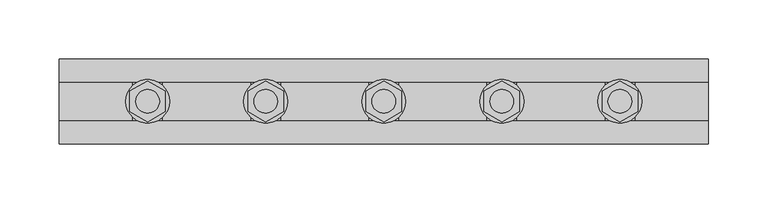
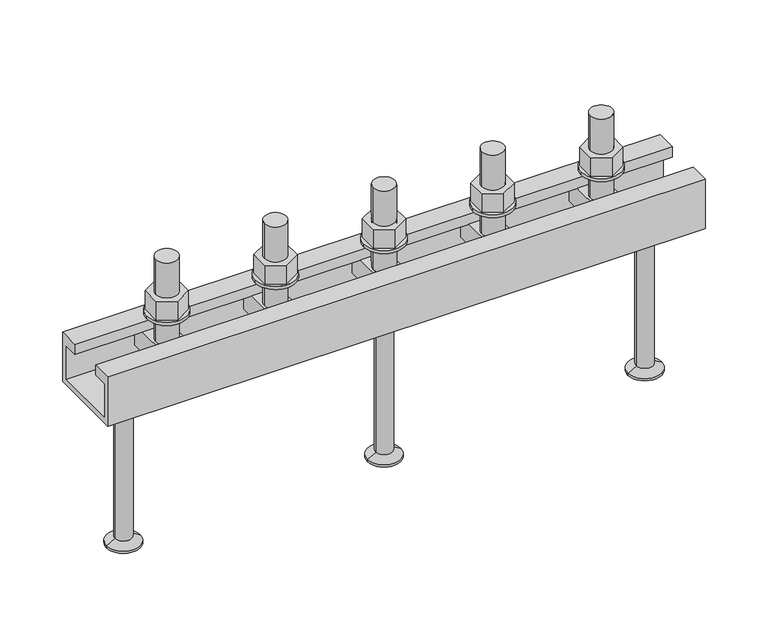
"""IFC4 building model written with IfcOpenShell, lengths in millimetres: fastener geometry, JTA-W JORDAHL® AnchorChannels : JTA-W L=550 mm."""

from ifc_helpers import new_model, si_unit, point, frame, frame_2d, origin, place, context, project, spatial, polyline, circle_curve, trimmed, segment, composite_curve, outline, extrude, source, transform, mapped, element, save
from ifc_brep_helpers import plane_surface, cylinder_surface, revolved_surface, advanced_brep


def fastener_9d3a3b20(model_context):
    return source(origin(), model_context, "Body", "SolidModel", [
        extrude(outline(polyline([(375.0, 17.3205081), (390.0, 8.660254), (390.0, -8.660254), (375.0, -17.3205081), (360.0, -8.660254), (360.0, 8.660254), (375.0, 17.3205081)]), holes=[composite_curve([segment(trimmed(circle_curve(frame_2d((375.0, 0.0)), 10.0), [point((365.0, 0.0))], [point((385.0, 0.0))], True, "CARTESIAN"), True, "CONTINUOUS"), segment(trimmed(circle_curve(frame_2d((375.0, 0.0)), 10.0), [point((385.0, 0.0))], [point((365.0, 0.0))], True, "CARTESIAN"), True, "CONTINUOUS")], self_intersect=False)]), frame((0.0, 0.0, 18.0), z_axis=(0.0, 0.0, 1.0), x_axis=(1.0, 0.0, 0.0)), (0.0, 0.0, 1.0), 18.0),
        extrude(outline(composite_curve([segment(trimmed(circle_curve(frame_2d((375.0, 0.0)), 18.5), [point((356.5, 0.0))], [point((393.5, 0.0))], False, "CARTESIAN"), True, "CONTINUOUS"), segment(trimmed(circle_curve(frame_2d((375.0, 0.0)), 18.5), [point((393.5, 0.0))], [point((356.5, 0.0))], False, "CARTESIAN"), True, "CONTINUOUS")], self_intersect=False), holes=[composite_curve([segment(trimmed(circle_curve(frame_2d((375.0, 0.0)), 10.5), [point((364.5, 0.0))], [point((385.5, 0.0))], True, "CARTESIAN"), True, "CONTINUOUS"), segment(trimmed(circle_curve(frame_2d((375.0, 0.0)), 10.5), [point((385.5, 0.0))], [point((364.5, 0.0))], True, "CARTESIAN"), True, "CONTINUOUS")], self_intersect=False)]), frame((0.0, 0.0, 15.0), z_axis=(0.0, 0.0, 1.0), x_axis=(1.0, 0.0, 0.0)), (0.0, 0.0, 1.0), 3.0),
        extrude(outline(polyline([(275.0, 17.3205081), (290.0, 8.660254), (290.0, -8.660254), (275.0, -17.3205081), (260.0, -8.660254), (260.0, 8.660254), (275.0, 17.3205081)]), holes=[composite_curve([segment(trimmed(circle_curve(frame_2d((275.0, 0.0)), 10.0), [point((265.0, 0.0))], [point((285.0, 0.0))], True, "CARTESIAN"), True, "CONTINUOUS"), segment(trimmed(circle_curve(frame_2d((275.0, 0.0)), 10.0), [point((285.0, 0.0))], [point((265.0, 0.0))], True, "CARTESIAN"), True, "CONTINUOUS")], self_intersect=False)]), frame((0.0, 0.0, 18.0), z_axis=(0.0, 0.0, 1.0), x_axis=(1.0, 0.0, 0.0)), (0.0, 0.0, 1.0), 18.0),
        extrude(outline(composite_curve([segment(trimmed(circle_curve(frame_2d((275.0, 0.0)), 18.5), [point((256.5, 0.0))], [point((293.5, 0.0))], False, "CARTESIAN"), True, "CONTINUOUS"), segment(trimmed(circle_curve(frame_2d((275.0, 0.0)), 18.5), [point((293.5, 0.0))], [point((256.5, 0.0))], False, "CARTESIAN"), True, "CONTINUOUS")], self_intersect=False), holes=[composite_curve([segment(trimmed(circle_curve(frame_2d((275.0, 0.0)), 10.5), [point((264.5, 0.0))], [point((285.5, 0.0))], True, "CARTESIAN"), True, "CONTINUOUS"), segment(trimmed(circle_curve(frame_2d((275.0, 0.0)), 10.5), [point((285.5, 0.0))], [point((264.5, 0.0))], True, "CARTESIAN"), True, "CONTINUOUS")], self_intersect=False)]), frame((0.0, 0.0, 15.0), z_axis=(0.0, 0.0, 1.0), x_axis=(1.0, 0.0, 0.0)), (0.0, 0.0, 1.0), 3.0),
        extrude(outline(polyline([(175.0, 17.3205081), (190.0, 8.660254), (190.0, -8.660254), (175.0, -17.3205081), (160.0, -8.660254), (160.0, 8.660254), (175.0, 17.3205081)]), holes=[composite_curve([segment(trimmed(circle_curve(frame_2d((175.0, 0.0)), 10.0), [point((165.0, 0.0))], [point((185.0, 0.0))], True, "CARTESIAN"), True, "CONTINUOUS"), segment(trimmed(circle_curve(frame_2d((175.0, 0.0)), 10.0), [point((185.0, 0.0))], [point((165.0, 0.0))], True, "CARTESIAN"), True, "CONTINUOUS")], self_intersect=False)]), frame((0.0, 0.0, 18.0), z_axis=(0.0, 0.0, 1.0), x_axis=(1.0, 0.0, 0.0)), (0.0, 0.0, 1.0), 18.0),
        extrude(outline(composite_curve([segment(trimmed(circle_curve(frame_2d((175.0, 0.0)), 18.5), [point((156.5, 0.0))], [point((193.5, 0.0))], False, "CARTESIAN"), True, "CONTINUOUS"), segment(trimmed(circle_curve(frame_2d((175.0, 0.0)), 18.5), [point((193.5, 0.0))], [point((156.5, 0.0))], False, "CARTESIAN"), True, "CONTINUOUS")], self_intersect=False), holes=[composite_curve([segment(trimmed(circle_curve(frame_2d((175.0, 0.0)), 10.5), [point((164.5, 0.0))], [point((185.5, 0.0))], True, "CARTESIAN"), True, "CONTINUOUS"), segment(trimmed(circle_curve(frame_2d((175.0, 0.0)), 10.5), [point((185.5, 0.0))], [point((164.5, 0.0))], True, "CARTESIAN"), True, "CONTINUOUS")], self_intersect=False)]), frame((0.0, 0.0, 15.0), z_axis=(0.0, 0.0, 1.0), x_axis=(1.0, 0.0, 0.0)), (0.0, 0.0, 1.0), 3.0),
        advanced_brep(
        [(387.5, 29.0, -10.0), (387.5, -29.0, -10.0), (387.5, -29.0, -30.0), (387.5, 29.0, -30.0), (362.5, 29.0, -10.0), (362.5, 29.0, -30.0), (362.5, -29.0, -30.0), (362.5, -29.0, -10.0), (385.0, 0.0, -10.0), (365.0, 0.0, -10.0), (365.0, 0.0, 70.0), (385.0, 0.0, 70.0)],
        [
            (0, 1),
            (1, 2),
            (2, 3),
            (3, 0),
            (4, 5),
            (5, 6),
            (6, 7),
            (7, 4),
            (0, 4),
            (7, 1),
            (8, 9, circle_curve(frame((375.0, 0.0, -10.0), z_axis=(0.0, 0.0, -1.0), x_axis=(1.0, 0.0, 0.0)), 10.0)),
            (9, 8, circle_curve(frame((375.0, 0.0, -10.0), z_axis=(0.0, 0.0, -1.0), x_axis=(1.0, 0.0, 0.0)), 10.0)),
            (6, 2),
            (5, 3),
            (10, 11, circle_curve(frame((375.0, 0.0, 70.0), z_axis=(0.0, 0.0, 1.0), x_axis=(1.0, 0.0, 0.0)), 10.0)),
            (11, 10, circle_curve(frame((375.0, 0.0, 70.0), z_axis=(0.0, 0.0, 1.0), x_axis=(1.0, 0.0, 0.0)), 10.0)),
            (10, 9),
            (8, 11),
        ],
        [
            plane_surface(frame((387.5, -29.0, -10.0), z_axis=(1.0, 0.0, 0.0), x_axis=(0.0, -1.0, 0.0))),
            plane_surface(frame((362.5, -29.0, -10.0), z_axis=(-1.0, 0.0, 0.0), x_axis=(0.0, 1.0, 0.0))),
            plane_surface(frame((387.5, 29.0, -10.0), z_axis=(0.0, 0.0, 1.0), x_axis=(-1.0, 0.0, 0.0))),
            plane_surface(frame((387.5, -29.0, -10.0), z_axis=(0.0, -1.0, 0.0), x_axis=(-1.0, 0.0, 0.0))),
            plane_surface(frame((387.5, -29.0, -30.0), z_axis=(0.0, 0.0, -1.0), x_axis=(-1.0, 0.0, 0.0))),
            plane_surface(frame((387.5, 29.0, -30.0), z_axis=(0.0, 1.0, 0.0), x_axis=(-1.0, 0.0, 0.0))),
            plane_surface(frame((385.0, 0.0, 70.0), z_axis=(0.0, 0.0, 1.0), x_axis=(0.0, 1.0, 0.0))),
            cylinder_surface(frame((375.0, 0.0, -10.0), z_axis=(0.0, 0.0, 1.0), x_axis=(1.0, 0.0, 0.0)), 10.0),
        ],
        [
            (0, [[1, 2, 3, 4]]),
            (1, [[5, 6, 7, 8]]),
            (2, [[-1, 9, -8, 10], [11, 12]]),
            (3, [[-2, -10, -7, 13]]),
            (4, [[-3, -13, -6, 14]]),
            (5, [[-4, -14, -5, -9]]),
            (6, [[15, 16]]),
            (7, [[-15, 17, -11, 18]]),
            (7, [[-16, -18, -12, -17]]),
        ],
    ),
        advanced_brep(
        [(287.5, 29.0, -10.0), (287.5, -29.0, -10.0), (287.5, -29.0, -30.0), (287.5, 29.0, -30.0), (262.5, 29.0, -10.0), (262.5, 29.0, -30.0), (262.5, -29.0, -30.0), (262.5, -29.0, -10.0), (285.0, 0.0, -10.0), (265.0, 0.0, -10.0), (265.0, 0.0, 70.0), (285.0, 0.0, 70.0)],
        [
            (0, 1),
            (1, 2),
            (2, 3),
            (3, 0),
            (4, 5),
            (5, 6),
            (6, 7),
            (7, 4),
            (0, 4),
            (7, 1),
            (8, 9, circle_curve(frame((275.0, 0.0, -10.0), z_axis=(0.0, 0.0, -1.0), x_axis=(1.0, 0.0, 0.0)), 10.0)),
            (9, 8, circle_curve(frame((275.0, 0.0, -10.0), z_axis=(0.0, 0.0, -1.0), x_axis=(1.0, 0.0, 0.0)), 10.0)),
            (6, 2),
            (5, 3),
            (10, 11, circle_curve(frame((275.0, 0.0, 70.0), z_axis=(0.0, 0.0, 1.0), x_axis=(1.0, 0.0, 0.0)), 10.0)),
            (11, 10, circle_curve(frame((275.0, 0.0, 70.0), z_axis=(0.0, 0.0, 1.0), x_axis=(1.0, 0.0, 0.0)), 10.0)),
            (10, 9),
            (8, 11),
        ],
        [
            plane_surface(frame((287.5, -29.0, -10.0), z_axis=(1.0, 0.0, 0.0), x_axis=(0.0, -1.0, 0.0))),
            plane_surface(frame((262.5, -29.0, -10.0), z_axis=(-1.0, 0.0, 0.0), x_axis=(0.0, 1.0, 0.0))),
            plane_surface(frame((287.5, 29.0, -10.0), z_axis=(0.0, 0.0, 1.0), x_axis=(-1.0, 0.0, 0.0))),
            plane_surface(frame((287.5, -29.0, -10.0), z_axis=(0.0, -1.0, 0.0), x_axis=(-1.0, 0.0, 0.0))),
            plane_surface(frame((287.5, -29.0, -30.0), z_axis=(0.0, 0.0, -1.0), x_axis=(-1.0, 0.0, 0.0))),
            plane_surface(frame((287.5, 29.0, -30.0), z_axis=(0.0, 1.0, 0.0), x_axis=(-1.0, 0.0, 0.0))),
            plane_surface(frame((285.0, 0.0, 70.0), z_axis=(0.0, 0.0, 1.0), x_axis=(0.0, 1.0, 0.0))),
            cylinder_surface(frame((275.0, 0.0, -10.0), z_axis=(0.0, 0.0, 1.0), x_axis=(1.0, 0.0, 0.0)), 10.0),
        ],
        [
            (0, [[1, 2, 3, 4]]),
            (1, [[5, 6, 7, 8]]),
            (2, [[-1, 9, -8, 10], [11, 12]]),
            (3, [[-2, -10, -7, 13]]),
            (4, [[-3, -13, -6, 14]]),
            (5, [[-4, -14, -5, -9]]),
            (6, [[15, 16]]),
            (7, [[-15, 17, -11, 18]]),
            (7, [[-16, -18, -12, -17]]),
        ],
    ),
        advanced_brep(
        [(187.5, 29.0, -10.0), (187.5, -29.0, -10.0), (187.5, -29.0, -30.0), (187.5, 29.0, -30.0), (162.5, 29.0, -10.0), (162.5, 29.0, -30.0), (162.5, -29.0, -30.0), (162.5, -29.0, -10.0), (185.0, 0.0, -10.0), (165.0, 0.0, -10.0), (165.0, 0.0, 70.0), (185.0, 0.0, 70.0)],
        [
            (0, 1),
            (1, 2),
            (2, 3),
            (3, 0),
            (4, 5),
            (5, 6),
            (6, 7),
            (7, 4),
            (0, 4),
            (7, 1),
            (8, 9, circle_curve(frame((175.0, 0.0, -10.0), z_axis=(0.0, 0.0, -1.0), x_axis=(1.0, 0.0, 0.0)), 10.0)),
            (9, 8, circle_curve(frame((175.0, 0.0, -10.0), z_axis=(0.0, 0.0, -1.0), x_axis=(1.0, 0.0, 0.0)), 10.0)),
            (6, 2),
            (5, 3),
            (10, 11, circle_curve(frame((175.0, 0.0, 70.0), z_axis=(0.0, 0.0, 1.0), x_axis=(1.0, 0.0, 0.0)), 10.0)),
            (11, 10, circle_curve(frame((175.0, 0.0, 70.0), z_axis=(0.0, 0.0, 1.0), x_axis=(1.0, 0.0, 0.0)), 10.0)),
            (10, 9),
            (8, 11),
        ],
        [
            plane_surface(frame((187.5, -29.0, -10.0), z_axis=(1.0, 0.0, 0.0), x_axis=(0.0, -1.0, 0.0))),
            plane_surface(frame((162.5, -29.0, -10.0), z_axis=(-1.0, 0.0, 0.0), x_axis=(0.0, 1.0, 0.0))),
            plane_surface(frame((187.5, 29.0, -10.0), z_axis=(0.0, 0.0, 1.0), x_axis=(-1.0, 0.0, 0.0))),
            plane_surface(frame((187.5, -29.0, -10.0), z_axis=(0.0, -1.0, 0.0), x_axis=(-1.0, 0.0, 0.0))),
            plane_surface(frame((187.5, -29.0, -30.0), z_axis=(0.0, 0.0, -1.0), x_axis=(-1.0, 0.0, 0.0))),
            plane_surface(frame((187.5, 29.0, -30.0), z_axis=(0.0, 1.0, 0.0), x_axis=(-1.0, 0.0, 0.0))),
            plane_surface(frame((185.0, 0.0, 70.0), z_axis=(0.0, 0.0, 1.0), x_axis=(0.0, 1.0, 0.0))),
            cylinder_surface(frame((175.0, 0.0, -10.0), z_axis=(0.0, 0.0, 1.0), x_axis=(1.0, 0.0, 0.0)), 10.0),
        ],
        [
            (0, [[1, 2, 3, 4]]),
            (1, [[5, 6, 7, 8]]),
            (2, [[-1, 9, -8, 10], [11, 12]]),
            (3, [[-2, -10, -7, 13]]),
            (4, [[-3, -13, -6, 14]]),
            (5, [[-4, -14, -5, -9]]),
            (6, [[15, 16]]),
            (7, [[-15, 17, -11, 18]]),
            (7, [[-16, -18, -12, -17]]),
        ],
    ),
        advanced_brep(
        [(275.0, 0.0, -48.0), (298.0, 0.0, -48.0), (252.0, 0.0, -48.0), (259.5, 0.0, -195.0), (290.5, 0.0, -195.0), (275.0, 0.0, -195.0), (259.5, 0.0, -193.0), (290.5, 0.0, -193.0), (267.2, 0.0, -188.5544029), (282.8, 0.0, -188.5544029), (267.2, 0.0, -52.0), (282.8, 0.0, -52.0)],
        [
            (0, 1),
            (1, 2, circle_curve(frame((275.0, 0.0, -48.0), z_axis=(0.0, 0.0, 1.0), x_axis=(1.0, 0.0, 0.0)), 23.0)),
            (2, 0),
            (2, 1, circle_curve(frame((275.0, 0.0, -48.0), z_axis=(0.0, 0.0, 1.0), x_axis=(1.0, 0.0, 0.0)), 23.0)),
            (3, 4, circle_curve(frame((275.0, 0.0, -195.0), z_axis=(0.0, 0.0, -1.0), x_axis=(1.0, 0.0, 0.0)), 15.5)),
            (4, 5),
            (5, 3),
            (4, 3, circle_curve(frame((275.0, 0.0, -195.0), z_axis=(0.0, 0.0, -1.0), x_axis=(1.0, 0.0, 0.0)), 15.5)),
            (6, 7, circle_curve(frame((275.0, 0.0, -193.0), z_axis=(0.0, 0.0, -1.0), x_axis=(1.0, 0.0, 0.0)), 15.5)),
            (7, 4),
            (3, 6),
            (7, 6, circle_curve(frame((275.0, 0.0, -193.0), z_axis=(0.0, 0.0, -1.0), x_axis=(1.0, 0.0, 0.0)), 15.5)),
            (8, 9, circle_curve(frame((275.0, 0.0, -188.5544029), z_axis=(0.0, 0.0, -1.0), x_axis=(1.0, 0.0, 0.0)), 7.8)),
            (9, 7),
            (6, 8),
            (9, 8, circle_curve(frame((275.0, 0.0, -188.5544029), z_axis=(0.0, 0.0, -1.0), x_axis=(1.0, 0.0, 0.0)), 7.8)),
            (10, 11, circle_curve(frame((275.0, 0.0, -52.0), z_axis=(0.0, 0.0, -1.0), x_axis=(1.0, 0.0, 0.0)), 7.8)),
            (11, 9),
            (8, 10),
            (11, 10, circle_curve(frame((275.0, 0.0, -52.0), z_axis=(0.0, 0.0, -1.0), x_axis=(1.0, 0.0, 0.0)), 7.8)),
            (1, 11),
            (10, 2),
        ],
        [
            plane_surface(frame((275.0, 0.0, -48.0), z_axis=(0.0, 0.0, 1.0), x_axis=(1.0, 0.0, 0.0))),
            plane_surface(frame((275.0, 0.0, -195.0), z_axis=(0.0, 0.0, -1.0), x_axis=(1.0, 0.0, 0.0))),
            cylinder_surface(frame((275.0, 0.0, 2361.3150031), z_axis=(0.0, 0.0, 1.0), x_axis=(1.0, 0.0, 0.0)), 15.5),
            revolved_surface(polyline([(290.5, 0.0, -193.0), (282.8, 0.0, -188.5544029)]), (275.0, 0.0, 2361.3150031), (0.0, 0.0, 1.0)),
            cylinder_surface(frame((275.0, 0.0, 2361.3150031), z_axis=(0.0, 0.0, 1.0), x_axis=(1.0, 0.0, 0.0)), 7.8),
            revolved_surface(polyline([(282.8, 0.0, -52.0), (298.0, 0.0, -48.0)]), (275.0, 0.0, 2361.3150031), (0.0, 0.0, 1.0)),
        ],
        [
            (0, [[1, 2, 3]]),
            (0, [[-3, 4, -1]]),
            (1, [[5, 6, 7]]),
            (1, [[8, -7, -6]]),
            (2, [[9, 10, -5, 11]]),
            (2, [[12, -11, -8, -10]]),
            (3, [[13, 14, -9, 15]]),
            (3, [[16, -15, -12, -14]]),
            (4, [[17, 18, -13, 19]]),
            (4, [[20, -19, -16, -18]]),
            (5, [[-2, 21, -17, 22]]),
            (5, [[-4, -22, -20, -21]]),
        ],
    ),
        extrude(outline(polyline([(475.0, 17.3205081), (490.0, 8.660254), (490.0, -8.660254), (475.0, -17.3205081), (460.0, -8.660254), (460.0, 8.660254), (475.0, 17.3205081)]), holes=[composite_curve([segment(trimmed(circle_curve(frame_2d((475.0, 0.0)), 10.0), [point((465.0, 0.0))], [point((485.0, 0.0))], True, "CARTESIAN"), True, "CONTINUOUS"), segment(trimmed(circle_curve(frame_2d((475.0, 0.0)), 10.0), [point((485.0, 0.0))], [point((465.0, 0.0))], True, "CARTESIAN"), True, "CONTINUOUS")], self_intersect=False)]), frame((0.0, 0.0, 18.0), z_axis=(0.0, 0.0, 1.0), x_axis=(1.0, 0.0, 0.0)), (0.0, 0.0, 1.0), 18.0),
        extrude(outline(composite_curve([segment(trimmed(circle_curve(frame_2d((475.0, 0.0)), 18.5), [point((456.5, 0.0))], [point((493.5, 0.0))], False, "CARTESIAN"), True, "CONTINUOUS"), segment(trimmed(circle_curve(frame_2d((475.0, 0.0)), 18.5), [point((493.5, 0.0))], [point((456.5, 0.0))], False, "CARTESIAN"), True, "CONTINUOUS")], self_intersect=False), holes=[composite_curve([segment(trimmed(circle_curve(frame_2d((475.0, 0.0)), 10.5), [point((464.5, 0.0))], [point((485.5, 0.0))], True, "CARTESIAN"), True, "CONTINUOUS"), segment(trimmed(circle_curve(frame_2d((475.0, 0.0)), 10.5), [point((485.5, 0.0))], [point((464.5, 0.0))], True, "CARTESIAN"), True, "CONTINUOUS")], self_intersect=False)]), frame((0.0, 0.0, 15.0), z_axis=(0.0, 0.0, 1.0), x_axis=(1.0, 0.0, 0.0)), (0.0, 0.0, 1.0), 3.0),
        extrude(outline(polyline([(75.0, 17.3205081), (90.0, 8.660254), (90.0, -8.660254), (75.0, -17.3205081), (60.0, -8.660254), (60.0, 8.660254), (75.0, 17.3205081)]), holes=[composite_curve([segment(trimmed(circle_curve(frame_2d((75.0, 0.0)), 10.0), [point((65.0, 0.0))], [point((85.0, 0.0))], True, "CARTESIAN"), True, "CONTINUOUS"), segment(trimmed(circle_curve(frame_2d((75.0, 0.0)), 10.0), [point((85.0, 0.0))], [point((65.0, 0.0))], True, "CARTESIAN"), True, "CONTINUOUS")], self_intersect=False)]), frame((0.0, 0.0, 18.0), z_axis=(0.0, 0.0, 1.0), x_axis=(1.0, 0.0, 0.0)), (0.0, 0.0, 1.0), 18.0),
        extrude(outline(composite_curve([segment(trimmed(circle_curve(frame_2d((75.0, 0.0)), 18.5), [point((56.5, 0.0))], [point((93.5, 0.0))], False, "CARTESIAN"), True, "CONTINUOUS"), segment(trimmed(circle_curve(frame_2d((75.0, 0.0)), 18.5), [point((93.5, 0.0))], [point((56.5, 0.0))], False, "CARTESIAN"), True, "CONTINUOUS")], self_intersect=False), holes=[composite_curve([segment(trimmed(circle_curve(frame_2d((75.0, 0.0)), 10.5), [point((64.5, 0.0))], [point((85.5, 0.0))], True, "CARTESIAN"), True, "CONTINUOUS"), segment(trimmed(circle_curve(frame_2d((75.0, 0.0)), 10.5), [point((85.5, 0.0))], [point((64.5, 0.0))], True, "CARTESIAN"), True, "CONTINUOUS")], self_intersect=False)]), frame((0.0, 0.0, 15.0), z_axis=(0.0, 0.0, 1.0), x_axis=(1.0, 0.0, 0.0)), (0.0, 0.0, 1.0), 3.0),
        advanced_brep(
        [(487.5, 29.0, -10.0), (487.5, -29.0, -10.0), (487.5, -29.0, -30.0), (487.5, 29.0, -30.0), (462.5, 29.0, -10.0), (462.5, 29.0, -30.0), (462.5, -29.0, -30.0), (462.5, -29.0, -10.0), (485.0, 0.0, -10.0), (465.0, 0.0, -10.0), (465.0, 0.0, 70.0), (485.0, 0.0, 70.0)],
        [
            (0, 1),
            (1, 2),
            (2, 3),
            (3, 0),
            (4, 5),
            (5, 6),
            (6, 7),
            (7, 4),
            (0, 4),
            (7, 1),
            (8, 9, circle_curve(frame((475.0, 0.0, -10.0), z_axis=(0.0, 0.0, -1.0), x_axis=(1.0, 0.0, 0.0)), 10.0)),
            (9, 8, circle_curve(frame((475.0, 0.0, -10.0), z_axis=(0.0, 0.0, -1.0), x_axis=(1.0, 0.0, 0.0)), 10.0)),
            (6, 2),
            (5, 3),
            (10, 11, circle_curve(frame((475.0, 0.0, 70.0), z_axis=(0.0, 0.0, 1.0), x_axis=(1.0, 0.0, 0.0)), 10.0)),
            (11, 10, circle_curve(frame((475.0, 0.0, 70.0), z_axis=(0.0, 0.0, 1.0), x_axis=(1.0, 0.0, 0.0)), 10.0)),
            (10, 9),
            (8, 11),
        ],
        [
            plane_surface(frame((487.5, -29.0, -10.0), z_axis=(1.0, 0.0, 0.0), x_axis=(0.0, -1.0, 0.0))),
            plane_surface(frame((462.5, -29.0, -10.0), z_axis=(-1.0, 0.0, 0.0), x_axis=(0.0, 1.0, 0.0))),
            plane_surface(frame((487.5, 29.0, -10.0), z_axis=(0.0, 0.0, 1.0), x_axis=(-1.0, 0.0, 0.0))),
            plane_surface(frame((487.5, -29.0, -10.0), z_axis=(0.0, -1.0, 0.0), x_axis=(-1.0, 0.0, 0.0))),
            plane_surface(frame((487.5, -29.0, -30.0), z_axis=(0.0, 0.0, -1.0), x_axis=(-1.0, 0.0, 0.0))),
            plane_surface(frame((487.5, 29.0, -30.0), z_axis=(0.0, 1.0, 0.0), x_axis=(-1.0, 0.0, 0.0))),
            plane_surface(frame((485.0, 0.0, 70.0), z_axis=(0.0, 0.0, 1.0), x_axis=(0.0, 1.0, 0.0))),
            cylinder_surface(frame((475.0, 0.0, -10.0), z_axis=(0.0, 0.0, 1.0), x_axis=(1.0, 0.0, 0.0)), 10.0),
        ],
        [
            (0, [[1, 2, 3, 4]]),
            (1, [[5, 6, 7, 8]]),
            (2, [[-1, 9, -8, 10], [11, 12]]),
            (3, [[-2, -10, -7, 13]]),
            (4, [[-3, -13, -6, 14]]),
            (5, [[-4, -14, -5, -9]]),
            (6, [[15, 16]]),
            (7, [[-15, 17, -11, 18]]),
            (7, [[-16, -18, -12, -17]]),
        ],
    ),
        advanced_brep(
        [(87.5, 29.0, -10.0), (87.5, -29.0, -10.0), (87.5, -29.0, -30.0), (87.5, 29.0, -30.0), (62.5, 29.0, -10.0), (62.5, 29.0, -30.0), (62.5, -29.0, -30.0), (62.5, -29.0, -10.0), (85.0, 0.0, -10.0), (65.0, 0.0, -10.0), (65.0, 0.0, 70.0), (85.0, 0.0, 70.0)],
        [
            (0, 1),
            (1, 2),
            (2, 3),
            (3, 0),
            (4, 5),
            (5, 6),
            (6, 7),
            (7, 4),
            (0, 4),
            (7, 1),
            (8, 9, circle_curve(frame((75.0, 0.0, -10.0), z_axis=(0.0, 0.0, -1.0), x_axis=(1.0, 0.0, 0.0)), 10.0)),
            (9, 8, circle_curve(frame((75.0, 0.0, -10.0), z_axis=(0.0, 0.0, -1.0), x_axis=(1.0, 0.0, 0.0)), 10.0)),
            (6, 2),
            (5, 3),
            (10, 11, circle_curve(frame((75.0, 0.0, 70.0), z_axis=(0.0, 0.0, 1.0), x_axis=(1.0, 0.0, 0.0)), 10.0)),
            (11, 10, circle_curve(frame((75.0, 0.0, 70.0), z_axis=(0.0, 0.0, 1.0), x_axis=(1.0, 0.0, 0.0)), 10.0)),
            (10, 9),
            (8, 11),
        ],
        [
            plane_surface(frame((87.5, -29.0, -10.0), z_axis=(1.0, 0.0, 0.0), x_axis=(0.0, -1.0, 0.0))),
            plane_surface(frame((62.5, -29.0, -10.0), z_axis=(-1.0, 0.0, 0.0), x_axis=(0.0, 1.0, 0.0))),
            plane_surface(frame((87.5, 29.0, -10.0), z_axis=(0.0, 0.0, 1.0), x_axis=(-1.0, 0.0, 0.0))),
            plane_surface(frame((87.5, -29.0, -10.0), z_axis=(0.0, -1.0, 0.0), x_axis=(-1.0, 0.0, 0.0))),
            plane_surface(frame((87.5, -29.0, -30.0), z_axis=(0.0, 0.0, -1.0), x_axis=(-1.0, 0.0, 0.0))),
            plane_surface(frame((87.5, 29.0, -30.0), z_axis=(0.0, 1.0, 0.0), x_axis=(-1.0, 0.0, 0.0))),
            plane_surface(frame((85.0, 0.0, 70.0), z_axis=(0.0, 0.0, 1.0), x_axis=(0.0, 1.0, 0.0))),
            cylinder_surface(frame((75.0, 0.0, -10.0), z_axis=(0.0, 0.0, 1.0), x_axis=(1.0, 0.0, 0.0)), 10.0),
        ],
        [
            (0, [[1, 2, 3, 4]]),
            (1, [[5, 6, 7, 8]]),
            (2, [[-1, 9, -8, 10], [11, 12]]),
            (3, [[-2, -10, -7, 13]]),
            (4, [[-3, -13, -6, 14]]),
            (5, [[-4, -14, -5, -9]]),
            (6, [[15, 16]]),
            (7, [[-15, 17, -11, 18]]),
            (7, [[-16, -18, -12, -17]]),
        ],
    ),
        advanced_brep(
        [(515.0, 0.0, -48.0), (538.0, 0.0, -48.0), (492.0, 0.0, -48.0), (499.5, 0.0, -195.0), (530.5, 0.0, -195.0), (515.0, 0.0, -195.0), (499.5, 0.0, -193.0), (530.5, 0.0, -193.0), (507.2, 0.0, -188.5544029), (522.8, 0.0, -188.5544029), (507.2, 0.0, -52.0), (522.8, 0.0, -52.0)],
        [
            (0, 1),
            (1, 2, circle_curve(frame((515.0, 0.0, -48.0), z_axis=(0.0, 0.0, 1.0), x_axis=(1.0, 0.0, 0.0)), 23.0)),
            (2, 0),
            (2, 1, circle_curve(frame((515.0, 0.0, -48.0), z_axis=(0.0, 0.0, 1.0), x_axis=(1.0, 0.0, 0.0)), 23.0)),
            (3, 4, circle_curve(frame((515.0, 0.0, -195.0), z_axis=(0.0, 0.0, -1.0), x_axis=(1.0, 0.0, 0.0)), 15.5)),
            (4, 5),
            (5, 3),
            (4, 3, circle_curve(frame((515.0, 0.0, -195.0), z_axis=(0.0, 0.0, -1.0), x_axis=(1.0, 0.0, 0.0)), 15.5)),
            (6, 7, circle_curve(frame((515.0, 0.0, -193.0), z_axis=(0.0, 0.0, -1.0), x_axis=(1.0, 0.0, 0.0)), 15.5)),
            (7, 4),
            (3, 6),
            (7, 6, circle_curve(frame((515.0, 0.0, -193.0), z_axis=(0.0, 0.0, -1.0), x_axis=(1.0, 0.0, 0.0)), 15.5)),
            (8, 9, circle_curve(frame((515.0, 0.0, -188.5544029), z_axis=(0.0, 0.0, -1.0), x_axis=(1.0, 0.0, 0.0)), 7.8)),
            (9, 7),
            (6, 8),
            (9, 8, circle_curve(frame((515.0, 0.0, -188.5544029), z_axis=(0.0, 0.0, -1.0), x_axis=(1.0, 0.0, 0.0)), 7.8)),
            (10, 11, circle_curve(frame((515.0, 0.0, -52.0), z_axis=(0.0, 0.0, -1.0), x_axis=(1.0, 0.0, 0.0)), 7.8)),
            (11, 9),
            (8, 10),
            (11, 10, circle_curve(frame((515.0, 0.0, -52.0), z_axis=(0.0, 0.0, -1.0), x_axis=(1.0, 0.0, 0.0)), 7.8)),
            (1, 11),
            (10, 2),
        ],
        [
            plane_surface(frame((515.0, 0.0, -48.0), z_axis=(0.0, 0.0, 1.0), x_axis=(1.0, 0.0, 0.0))),
            plane_surface(frame((515.0, 0.0, -195.0), z_axis=(0.0, 0.0, -1.0), x_axis=(1.0, 0.0, 0.0))),
            cylinder_surface(frame((515.0, 0.0, 2361.3150031), z_axis=(0.0, 0.0, 1.0), x_axis=(1.0, 0.0, 0.0)), 15.5),
            revolved_surface(polyline([(530.5, 0.0, -193.0), (522.8, 0.0, -188.5544029)]), (515.0, 0.0, 2361.3150031), (0.0, 0.0, 1.0)),
            cylinder_surface(frame((515.0, 0.0, 2361.3150031), z_axis=(0.0, 0.0, 1.0), x_axis=(1.0, 0.0, 0.0)), 7.8),
            revolved_surface(polyline([(522.8, 0.0, -52.0), (538.0, 0.0, -48.0)]), (515.0, 0.0, 2361.3150031), (0.0, 0.0, 1.0)),
        ],
        [
            (0, [[1, 2, 3]]),
            (0, [[-3, 4, -1]]),
            (1, [[5, 6, 7]]),
            (1, [[8, -7, -6]]),
            (2, [[9, 10, -5, 11]]),
            (2, [[12, -11, -8, -10]]),
            (3, [[13, 14, -9, 15]]),
            (3, [[16, -15, -12, -14]]),
            (4, [[17, 18, -13, 19]]),
            (4, [[20, -19, -16, -18]]),
            (5, [[-2, 21, -17, 22]]),
            (5, [[-4, -22, -20, -21]]),
        ],
    ),
        advanced_brep(
        [(35.0, 0.0, -48.0), (58.0, 0.0, -48.0), (12.0, 0.0, -48.0), (19.5, 0.0, -195.0), (50.5, 0.0, -195.0), (35.0, 0.0, -195.0), (19.5, 0.0, -193.0), (50.5, 0.0, -193.0), (27.2, 0.0, -188.5544029), (42.8, 0.0, -188.5544029), (27.2, 0.0, -52.0), (42.8, 0.0, -52.0)],
        [
            (0, 1),
            (1, 2, circle_curve(frame((35.0, 0.0, -48.0), z_axis=(0.0, 0.0, 1.0), x_axis=(1.0, 0.0, 0.0)), 23.0)),
            (2, 0),
            (2, 1, circle_curve(frame((35.0, 0.0, -48.0), z_axis=(0.0, 0.0, 1.0), x_axis=(1.0, 0.0, 0.0)), 23.0)),
            (3, 4, circle_curve(frame((35.0, 0.0, -195.0), z_axis=(0.0, 0.0, -1.0), x_axis=(1.0, 0.0, 0.0)), 15.5)),
            (4, 5),
            (5, 3),
            (4, 3, circle_curve(frame((35.0, 0.0, -195.0), z_axis=(0.0, 0.0, -1.0), x_axis=(1.0, 0.0, 0.0)), 15.5)),
            (6, 7, circle_curve(frame((35.0, 0.0, -193.0), z_axis=(0.0, 0.0, -1.0), x_axis=(1.0, 0.0, 0.0)), 15.5)),
            (7, 4),
            (3, 6),
            (7, 6, circle_curve(frame((35.0, 0.0, -193.0), z_axis=(0.0, 0.0, -1.0), x_axis=(1.0, 0.0, 0.0)), 15.5)),
            (8, 9, circle_curve(frame((35.0, 0.0, -188.5544029), z_axis=(0.0, 0.0, -1.0), x_axis=(1.0, 0.0, 0.0)), 7.8)),
            (9, 7),
            (6, 8),
            (9, 8, circle_curve(frame((35.0, 0.0, -188.5544029), z_axis=(0.0, 0.0, -1.0), x_axis=(1.0, 0.0, 0.0)), 7.8)),
            (10, 11, circle_curve(frame((35.0, 0.0, -52.0), z_axis=(0.0, 0.0, -1.0), x_axis=(1.0, 0.0, 0.0)), 7.8)),
            (11, 9),
            (8, 10),
            (11, 10, circle_curve(frame((35.0, 0.0, -52.0), z_axis=(0.0, 0.0, -1.0), x_axis=(1.0, 0.0, 0.0)), 7.8)),
            (1, 11),
            (10, 2),
        ],
        [
            plane_surface(frame((35.0, 0.0, -48.0), z_axis=(0.0, 0.0, 1.0), x_axis=(1.0, 0.0, 0.0))),
            plane_surface(frame((35.0, 0.0, -195.0), z_axis=(0.0, 0.0, -1.0), x_axis=(1.0, 0.0, 0.0))),
            cylinder_surface(frame((35.0, 0.0, 2361.3150031), z_axis=(0.0, 0.0, 1.0), x_axis=(1.0, 0.0, 0.0)), 15.5),
            revolved_surface(polyline([(50.5, 0.0, -193.0), (42.8, 0.0, -188.5544029)]), (35.0, 0.0, 2361.3150031), (0.0, 0.0, 1.0)),
            cylinder_surface(frame((35.0, 0.0, 2361.3150031), z_axis=(0.0, 0.0, 1.0), x_axis=(1.0, 0.0, 0.0)), 7.8),
            revolved_surface(polyline([(42.8, 0.0, -52.0), (58.0, 0.0, -48.0)]), (35.0, 0.0, 2361.3150031), (0.0, 0.0, 1.0)),
        ],
        [
            (0, [[1, 2, 3]]),
            (0, [[-3, 4, -1]]),
            (1, [[5, 6, 7]]),
            (1, [[8, -7, -6]]),
            (2, [[9, 10, -5, 11]]),
            (2, [[12, -11, -8, -10]]),
            (3, [[13, 14, -9, 15]]),
            (3, [[16, -15, -12, -14]]),
            (4, [[17, 18, -13, 19]]),
            (4, [[20, -19, -16, -18]]),
            (5, [[-2, 21, -17, 22]]),
            (5, [[-4, -22, -20, -21]]),
        ],
    ),
        extrude(outline(polyline([(36.0, 0.0), (36.0, -48.0), (-36.0, -48.0), (-36.0, 0.0), (-16.5, 0.0), (-16.5, -10.0), (-31.0, -10.0), (-31.0, -43.0), (31.0, -43.0), (31.0, -10.0), (16.5, -10.0), (16.5, 0.0), (36.0, 0.0)])), frame((0.0, 0.0, 0.0), z_axis=(1.0, 0.0, 0.0), x_axis=(0.0, 1.0, 0.0)), (0.0, 0.0, 1.0), 550.0),
    ])


if __name__ == "__main__":
    model = new_model("IFC4")
    model_context = context("Model", 3, world=origin())
    ifc_project = project(units=[si_unit("LENGTHUNIT", "METRE", prefix="MILLI")], contexts=[model_context])
    site = spatial("IfcSite", under=ifc_project)
    building = spatial("IfcBuilding", under=site)
    placement = place(None, origin())
    fastener_shape = fastener_9d3a3b20(model_context)
    element("IfcFastener", 1, ObjectType="JTA-W JORDAHL® AnchorChannels : JTA-W L=550 mm", at=placement, inside=building, context=model_context, shape_type="MappedRepresentation", body=[
        mapped(fastener_shape, transform((0.0, 0.0, 0.0), x_axis=(1.0, 0.0, 0.0), y_axis=(0.0, 1.0, 0.0), z_axis=(0.0, 0.0, 1.0))),
    ])
    save(model, "model.ifc")
